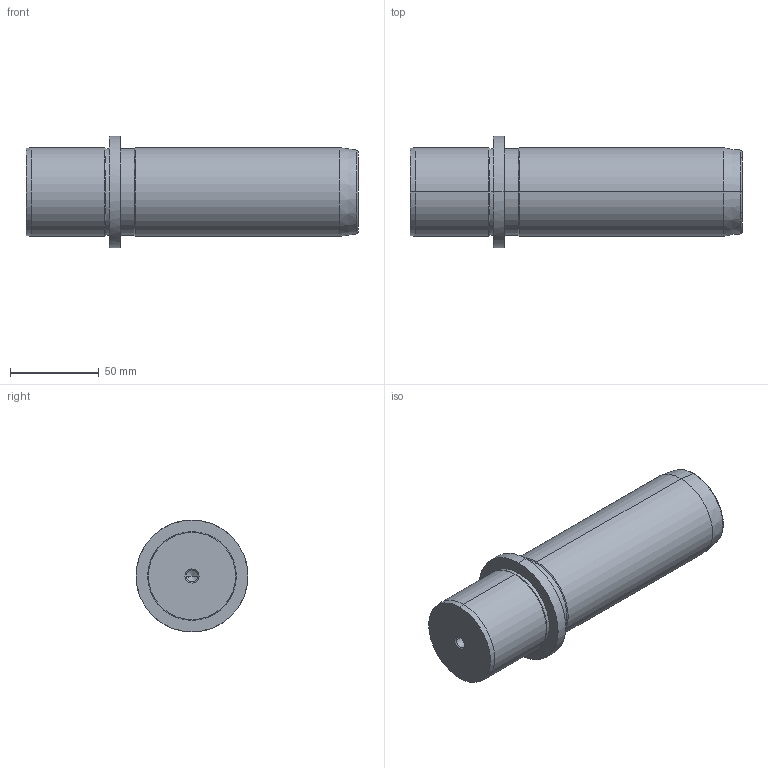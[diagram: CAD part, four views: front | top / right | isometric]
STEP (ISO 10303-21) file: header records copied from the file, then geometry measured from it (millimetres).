
FILE_DESCRIPTION(('CATIA V5 STEP Exchange'),'2;1');
FILE_NAME('C:\Users\Utente\Desktop\IO LAVORO\3D X SITO CF\X SITO\718\718-50x140.stp','2021-01-02T12:25:36+00:00',('none'),('none'),'CATIA Version 5 Release 20 GA (IN-10)','CATIA V5 STEP AP203','none');
FILE_SCHEMA(('CONFIG_CONTROL_DESIGN'));
Length unit declared in the file: millimetre
Products named in the file (1): 718-50x140
Bounding box: 187 x 63 x 63 mm (x, y, z)
Volume: 370230.7 mm3; surface area: 36657.4 mm2
Topology: 1 solids, 1 shells, 36 faces, 100 edges, 66 vertices
Faces by surface type: cone 16, cylinder 14, plane 4, torus 2
Entity records: 1291 total; most frequent: CARTESIAN_POINT 362, ORIENTED_EDGE 192, DIRECTION 157, EDGE_CURVE 96, AXIS2_PLACEMENT_3D 92, VERTEX_POINT 66, CIRCLE 55, EDGE_LOOP 40
